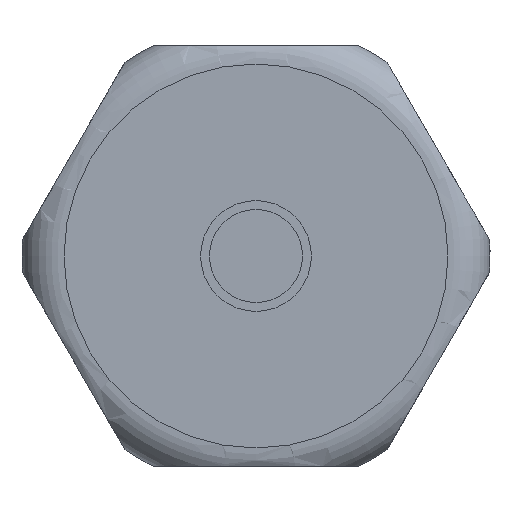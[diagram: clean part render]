
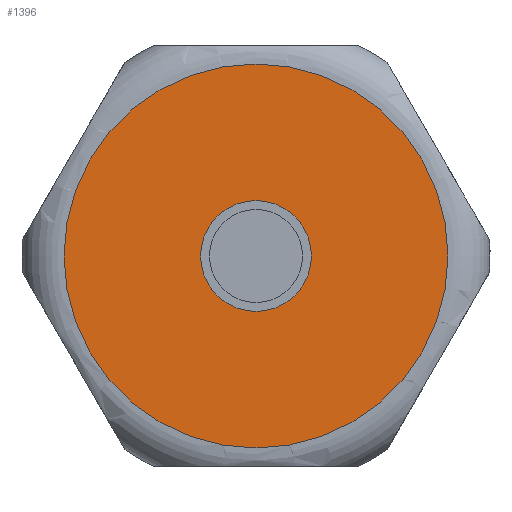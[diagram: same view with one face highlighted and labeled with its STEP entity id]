
A CAD part, left-side view. The second image highlights one B-rep face of the part: STEP entity #1396.
In plain terms, the highlighted planar face has unit normal (-1, 0, 0).
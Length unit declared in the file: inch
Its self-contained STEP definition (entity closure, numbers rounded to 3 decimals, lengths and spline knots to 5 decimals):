
#87=FACE_BOUND('',#213,.T.);
#104=PLANE('',#1526);
#135=FACE_OUTER_BOUND('',#212,.T.);
#212=EDGE_LOOP('',(#977,#978));
#213=EDGE_LOOP('',(#979,#980));
#402=CIRCLE('',#1482,0.14764);
#403=CIRCLE('',#1483,0.14764);
#429=CIRCLE('',#1527,0.51181);
#430=CIRCLE('',#1528,0.51181);
#518=VERTEX_POINT('',#2103);
#519=VERTEX_POINT('',#2104);
#558=VERTEX_POINT('',#2364);
#559=VERTEX_POINT('',#2365);
#663=EDGE_CURVE('',#518,#519,#402,.T.);
#664=EDGE_CURVE('',#519,#518,#403,.T.);
#720=EDGE_CURVE('',#558,#559,#429,.T.);
#721=EDGE_CURVE('',#559,#558,#430,.T.);
#977=ORIENTED_EDGE('',*,*,#720,.F.);
#978=ORIENTED_EDGE('',*,*,#721,.F.);
#979=ORIENTED_EDGE('',*,*,#663,.T.);
#980=ORIENTED_EDGE('',*,*,#664,.T.);
#1396=ADVANCED_FACE('',(#135,#87),#104,.T.);
#1482=AXIS2_PLACEMENT_3D('',#2105,#1676,#1677);
#1483=AXIS2_PLACEMENT_3D('',#2106,#1678,#1679);
#1526=AXIS2_PLACEMENT_3D('',#2363,#1780,#1781);
#1527=AXIS2_PLACEMENT_3D('',#2366,#1782,#1783);
#1528=AXIS2_PLACEMENT_3D('',#2367,#1784,#1785);
#1676=DIRECTION('center_axis',(1.,0.,0.));
#1677=DIRECTION('ref_axis',(0.,-0.866,0.5));
#1678=DIRECTION('center_axis',(1.,0.,0.));
#1679=DIRECTION('ref_axis',(0.,-0.866,0.5));
#1780=DIRECTION('center_axis',(-1.,0.,0.));
#1781=DIRECTION('ref_axis',(0.,-0.866,0.5));
#1782=DIRECTION('center_axis',(1.,0.,0.));
#1783=DIRECTION('ref_axis',(0.,0.866,-0.5));
#1784=DIRECTION('center_axis',(1.,0.,0.));
#1785=DIRECTION('ref_axis',(0.,0.866,-0.5));
#2103=CARTESIAN_POINT('',(-2.66747,-0.02656,-0.27052));
#2104=CARTESIAN_POINT('',(-2.66747,0.22916,-0.41816));
#2105=CARTESIAN_POINT('Origin',(-2.66747,0.1013,-0.34434));
#2106=CARTESIAN_POINT('Origin',(-2.66747,0.1013,-0.34434));
#2363=CARTESIAN_POINT('Origin',(-2.66747,0.54454,-0.60025));
#2364=CARTESIAN_POINT('',(-2.66747,0.54454,-0.60025));
#2365=CARTESIAN_POINT('',(-2.66747,-0.34194,-0.08844));
#2366=CARTESIAN_POINT('Origin',(-2.66747,0.1013,-0.34434));
#2367=CARTESIAN_POINT('Origin',(-2.66747,0.1013,-0.34434));
